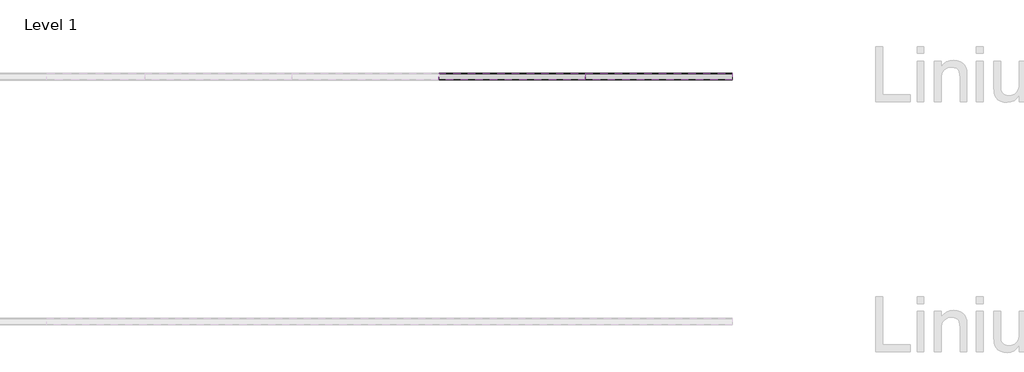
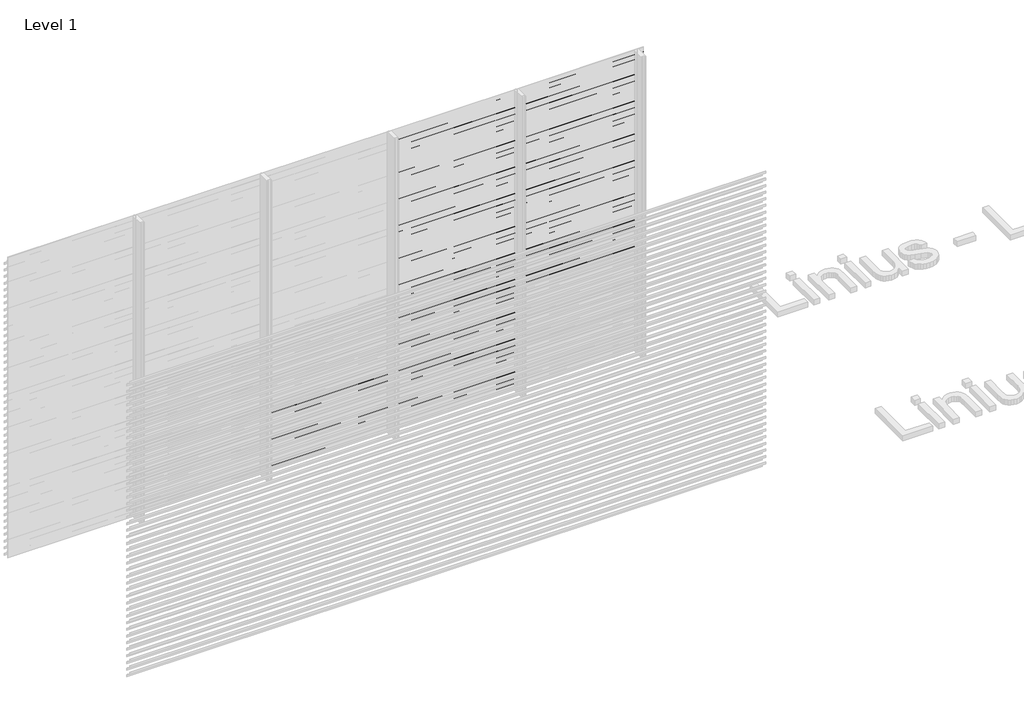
# One storey, part 27 of 540: 84 proxies.
"""IFC4 building model written with IfcOpenShell, lengths in millimetres."""

import ifcopenshell
import ifcopenshell.guid

model = None  # the IFC model being written
_history = None  # IfcOwnerHistory: only IFC2X3 demands one
_inside = {}  # id of a spatial element -> (the spatial element, [elements in it])
_under = {}  # id of a project, library or spatial element -> (it, [spatial elements below it])
_declared = {}  # id of a project -> (the project, [libraries it declares])
_typed = {}  # id of a type object -> (the type object, [elements of that type])
_made_of = {}  # id of a material, layer set ... -> (it, [elements and type objects made of it])


def new_model(schema):
    """Start an empty IFC model of exactly this schema.

    Asked for "IFC4X3", IfcOpenShell would pick the latest addendum, in which some entities
    have other attributes; the version numbers below select the first issue.
    IFC2X3 requires an IfcOwnerHistory on every rooted entity: one is made here for all.
    """
    global model, _history
    if schema == "IFC4X3":
        model = ifcopenshell.file(schema_version=(4, 3, 0, 0))
    else:
        model = ifcopenshell.file(schema=schema)
    _inside.clear()
    _under.clear()
    _declared.clear()
    _typed.clear()
    _made_of.clear()
    _history = None
    if model.schema == "IFC2X3":
        org = make("IfcOrganization", Name="unknown")
        user = make(
            "IfcPersonAndOrganization",
            ThePerson=make("IfcPerson", FamilyName="unknown"),
            TheOrganization=org,
        )
        app = make(
            "IfcApplication",
            ApplicationDeveloper=org,
            Version="unknown",
            ApplicationFullName="unknown",
            ApplicationIdentifier="unknown",
        )
        _history = make(
            "IfcOwnerHistory",
            OwningUser=user,
            OwningApplication=app,
            ChangeAction="ADDED",
            CreationDate=0,
        )
    return model


def make(cls, **values):
    """One entity of the class cls with the attributes given. An attribute that is None is left unset."""
    return model.create_entity(
        cls, **{name: value for name, value in values.items() if value is not None}
    )


def rooted(cls, **values):
    """An entity with a GlobalId (a new one), such as an element, a storey or a relation."""
    return make(cls, GlobalId=ifcopenshell.guid.new(), OwnerHistory=_history, **values)


def si_unit(unit_type, name, prefix=None):
    """IfcSIUnit, for example si_unit("LENGTHUNIT", "METRE", prefix="MILLI")."""
    return make("IfcSIUnit", UnitType=unit_type, Prefix=prefix, Name=name)


def assignment(units):
    """IfcUnitAssignment: the units of a project."""
    return None if units is None else make("IfcUnitAssignment", Units=units)


def point(xyz):
    """IfcCartesianPoint."""
    return None if xyz is None else make("IfcCartesianPoint", Coordinates=xyz)


def direction(xyz):
    """IfcDirection."""
    return None if xyz is None else make("IfcDirection", DirectionRatios=xyz)


def frame(location, z_axis=None, x_axis=None):
    """IfcAxis2Placement3D, a coordinate frame: its origin and axes. An axis left out is left unset."""
    return make(
        "IfcAxis2Placement3D",
        Location=point(location),
        Axis=direction(z_axis),
        RefDirection=direction(x_axis),
    )


def origin():
    """The frame at (0, 0, 0) with its axes left unset."""
    return frame((0.0, 0.0, 0.0))


def place(relative_to, where):
    """IfcLocalPlacement: puts the frame where relative to a parent placement (None: the world)."""
    return make(
        "IfcLocalPlacement", PlacementRelTo=relative_to, RelativePlacement=where
    )


def context(
    kind, dimensions, precision=None, world=None, true_north=None, identifier=None
):
    """IfcGeometricRepresentationContext, for example the 3D "Model" context."""
    return make(
        "IfcGeometricRepresentationContext",
        ContextIdentifier=identifier,
        ContextType=kind,
        CoordinateSpaceDimension=dimensions,
        Precision=precision,
        WorldCoordinateSystem=world,
        TrueNorth=true_north,
    )


def project(units=None, contexts=None):
    """IfcProject with its units and contexts."""
    return rooted(
        "IfcProject",
        Name="project",
        RepresentationContexts=contexts,
        UnitsInContext=assignment(units),
    )


def spatial(cls, under=None, at=None, **own):
    """A site, building, storey or space (cls), placed at a placement, below another one or the project."""
    s = rooted(cls, ObjectPlacement=at, **own)
    if under is not None:
        _under.setdefault(under.id(), (under, []))[1].append(s)
    return s


def polyline(points):
    """IfcPolyline through the points."""
    return make("IfcPolyline", Points=[point(p) for p in points])


def outline(outer, holes=None, kind="AREA"):
    """IfcArbitraryClosedProfileDef: a profile drawn as a closed curve; with holes, ...WithVoids."""
    if holes is None:
        return make("IfcArbitraryClosedProfileDef", ProfileType=kind, OuterCurve=outer)
    return make(
        "IfcArbitraryProfileDefWithVoids",
        ProfileType=kind,
        OuterCurve=outer,
        InnerCurves=holes,
    )


def extrude(swept, where, along, depth):
    """IfcExtrudedAreaSolid: the profile swept, set in the frame where, extruded along a direction by depth."""
    return make(
        "IfcExtrudedAreaSolid",
        SweptArea=swept,
        Position=where,
        ExtrudedDirection=direction(along),
        Depth=depth,
    )


def shape(context_of_items, identifier, shape_type, items):
    """IfcShapeRepresentation: the items that make up one representation, for example the "Body"."""
    return make(
        "IfcShapeRepresentation",
        ContextOfItems=context_of_items,
        RepresentationIdentifier=identifier,
        RepresentationType=shape_type,
        Items=items,
    )


def made_of(thing, what):
    """Note that an element or type object is made of a material, layer set ...; save() writes the relation."""
    if what is not None:
        _made_of.setdefault(what.id(), (what, []))[1].append(thing)
    return thing


def element(
    cls,
    number,
    at=None,
    inside=None,
    cuts=None,
    type_object=None,
    material=None,
    context=None,
    identifier="Body",
    shape_type=None,
    held_by="IfcProductDefinitionShape",
    body=None,
    shapes=None,
    **own,
):
    """One element of the class cls, such as IfcWall. Its Tag is "e" and its number.

    at: its placement. inside: the storey or other place that contains it. cuts: it is an
    opening in that element (IfcRelVoidsElement). A single representation is given by context,
    identifier, shape_type and body (its items); several are given by shapes. held_by: the class
    of the entity that holds the representations. save() writes the other relations.
    """
    e = rooted(cls, Tag="e%d" % number, ObjectPlacement=at, **own)
    if body is not None:
        shapes = [shape(context, identifier, shape_type, body)]
    if shapes is not None:
        e.Representation = make(held_by, Representations=shapes)
    if inside is not None:
        _inside.setdefault(inside.id(), (inside, []))[1].append(e)
    if cuts is not None:
        rooted(
            "IfcRelVoidsElement", RelatingBuildingElement=cuts, RelatedOpeningElement=e
        )
    if type_object is not None:
        _typed.setdefault(type_object.id(), (type_object, []))[1].append(e)
    return made_of(e, material)


def aggregate(whole, parts):
    """IfcRelAggregates: a whole, such as a stair, and the parts it consists of."""
    return rooted("IfcRelAggregates", RelatingObject=whole, RelatedObjects=parts)


def save(model, path):
    """Write the relations noted so far, then the file.

    IfcRelAggregates (storeys below a building ...), IfcRelContainedInSpatialStructure (elements
    in a storey), IfcRelDefinesByType, IfcRelAssociatesMaterial and IfcRelDeclares: one each for
    every whole, place, type object, material and project.
    """
    for whole, parts in _under.values():
        aggregate(whole, parts)
    for where, things in _inside.values():
        rooted(
            "IfcRelContainedInSpatialStructure",
            RelatedElements=things,
            RelatingStructure=where,
        )
    for kind, things in _typed.values():
        rooted("IfcRelDefinesByType", RelatedObjects=things, RelatingType=kind)
    for what, things in _made_of.values():
        rooted("IfcRelAssociatesMaterial", RelatedObjects=things, RelatingMaterial=what)
    for by, libraries in _declared.values():
        rooted("IfcRelDeclares", RelatingContext=by, RelatedDefinitions=libraries)
    model.write(path)


model = new_model("IFC4")

# Units and contexts
model_context = context("Model", 3, world=origin())
ifc_project = project(units=[si_unit("LENGTHUNIT", "METRE", prefix="MILLI")], contexts=[model_context])

# Site, building, storey
site = spatial("IfcSite", under=ifc_project)
building = spatial("IfcBuilding", under=site)
storey = spatial("IfcBuildingStorey", under=building, Name="Level 1", Elevation=0.0)

# Proxies
placement = place(None, origin())
element("IfcBuildingElementProxy", 1, Name="Wall Sweeps", at=placement, inside=storey, context=model_context, shape_type="SweptSolid", body=[
    extrude(outline(polyline([(14038.0540136, 537.5), (14038.0540136, 517.5), (14036.8040136, 518.2216933), (14036.8040136, 536.7872415), (13983.0540136, 574.3158044), (13983.0540136, 594.0), (13984.3040136, 594.0), (13984.3040136, 575.0285629), (14038.0540136, 537.5)])), frame((2866.6208097, 0.0, 0.0), z_axis=(1.0, 0.0, 0.0), x_axis=(0.0, 1.0, 0.0)), (0.0, 0.0, 1.0), 1199.9999999),
])
element("IfcBuildingElementProxy", 2, Name="Wall Sweeps", at=placement, inside=storey, context=model_context, shape_type="SweptSolid", body=[
    extrude(outline(polyline([(14038.0540136, 471.5), (14038.0540136, 451.5), (14036.8040136, 452.2216933), (14036.8040136, 470.7872415), (13983.0540136, 508.3158044), (13983.0540136, 528.0), (13984.3040136, 528.0), (13984.3040136, 509.0285629), (14038.0540136, 471.5)])), frame((2866.6208097, 0.0, 0.0), z_axis=(1.0, 0.0, 0.0), x_axis=(0.0, 1.0, 0.0)), (0.0, 0.0, 1.0), 1199.9999999),
])
element("IfcBuildingElementProxy", 3, Name="Wall Sweeps", at=placement, inside=storey, context=model_context, shape_type="SweptSolid", body=[
    extrude(outline(polyline([(14038.0540136, 405.5), (14038.0540136, 385.5), (14036.8040136, 386.2216933), (14036.8040136, 404.7872415), (13983.0540136, 442.3158044), (13983.0540136, 462.0), (13984.3040136, 462.0), (13984.3040136, 443.0285629), (14038.0540136, 405.5)])), frame((2866.6208097, 0.0, 0.0), z_axis=(1.0, 0.0, 0.0), x_axis=(0.0, 1.0, 0.0)), (0.0, 0.0, 1.0), 1199.9999999),
])
element("IfcBuildingElementProxy", 4, Name="Wall Sweeps", at=placement, inside=storey, context=model_context, shape_type="SweptSolid", body=[
    extrude(outline(polyline([(14038.0540136, 339.5), (14038.0540136, 319.5), (14036.8040136, 320.2216933), (14036.8040136, 338.7872415), (13983.0540136, 376.3158044), (13983.0540136, 396.0), (13984.3040136, 396.0), (13984.3040136, 377.0285629), (14038.0540136, 339.5)])), frame((2866.6208097, 0.0, 0.0), z_axis=(1.0, 0.0, 0.0), x_axis=(0.0, 1.0, 0.0)), (0.0, 0.0, 1.0), 1199.9999999),
])
element("IfcBuildingElementProxy", 5, Name="Wall Sweeps", at=placement, inside=storey, context=model_context, shape_type="SweptSolid", body=[
    extrude(outline(polyline([(14038.0540136, 273.5), (14038.0540136, 253.5), (14036.8040136, 254.2216933), (14036.8040136, 272.7872415), (13983.0540136, 310.3158044), (13983.0540136, 330.0), (13984.3040136, 330.0), (13984.3040136, 311.0285629), (14038.0540136, 273.5)])), frame((2866.6208097, 0.0, 0.0), z_axis=(1.0, 0.0, 0.0), x_axis=(0.0, 1.0, 0.0)), (0.0, 0.0, 1.0), 1199.9999999),
])
element("IfcBuildingElementProxy", 6, Name="Wall Sweeps", at=placement, inside=storey, context=model_context, shape_type="SweptSolid", body=[
    extrude(outline(polyline([(14038.0540136, 207.5), (14038.0540136, 187.5), (14036.8040136, 188.2216933), (14036.8040136, 206.7872415), (13983.0540136, 244.3158044), (13983.0540136, 264.0), (13984.3040136, 264.0), (13984.3040136, 245.0285629), (14038.0540136, 207.5)])), frame((2866.6208097, 0.0, 0.0), z_axis=(1.0, 0.0, 0.0), x_axis=(0.0, 1.0, 0.0)), (0.0, 0.0, 1.0), 1199.9999999),
])
element("IfcBuildingElementProxy", 7, Name="Wall Sweeps", at=placement, inside=storey, context=model_context, shape_type="SweptSolid", body=[
    extrude(outline(polyline([(14038.0540136, 141.5), (14038.0540136, 121.5), (14036.8040136, 122.2216933), (14036.8040136, 140.7872415), (13983.0540136, 178.3158044), (13983.0540136, 198.0), (13984.3040136, 198.0), (13984.3040136, 179.0285629), (14038.0540136, 141.5)])), frame((2866.6208097, 0.0, 0.0), z_axis=(1.0, 0.0, 0.0), x_axis=(0.0, 1.0, 0.0)), (0.0, 0.0, 1.0), 1199.9999999),
])
element("IfcBuildingElementProxy", 8, Name="Wall Sweeps", at=placement, inside=storey, context=model_context, shape_type="SweptSolid", body=[
    extrude(outline(polyline([(14038.0540136, 75.5), (14038.0540136, 55.5), (14036.8040136, 56.2216933), (14036.8040136, 74.7872415), (13983.0540136, 112.3158044), (13983.0540136, 132.0), (13984.3040136, 132.0), (13984.3040136, 113.0285629), (14038.0540136, 75.5)])), frame((2866.6208097, 0.0, 0.0), z_axis=(1.0, 0.0, 0.0), x_axis=(0.0, 1.0, 0.0)), (0.0, 0.0, 1.0), 1199.9999999),
])
element("IfcBuildingElementProxy", 9, Name="Wall Sweeps", at=placement, inside=storey, context=model_context, shape_type="SweptSolid", body=[
    extrude(outline(polyline([(14038.0540136, 9.5), (14038.0540136, -10.5), (14036.8040136, -9.7783067), (14036.8040136, 8.7872415), (13983.0540136, 46.3158044), (13983.0540136, 66.0), (13984.3040136, 66.0), (13984.3040136, 47.0285629), (14038.0540136, 9.5)])), frame((2866.6208097, 0.0, 0.0), z_axis=(1.0, 0.0, 0.0), x_axis=(0.0, 1.0, 0.0)), (0.0, 0.0, 1.0), 1199.9999999),
])
element("IfcBuildingElementProxy", 10, Name="Wall Sweeps", at=placement, inside=storey, context=model_context, shape_type="SweptSolid", body=[
    extrude(outline(polyline([(14038.0540136, 2913.5), (14038.0540136, 2893.5), (14036.8040136, 2894.2216933), (14036.8040136, 2912.7872415), (13983.0540136, 2950.3158044), (13983.0540136, 2970.0), (13984.3040136, 2970.0), (13984.3040136, 2951.0285629), (14038.0540136, 2913.5)])), frame((5266.6208095, 0.0, 0.0), z_axis=(1.0, 0.0, 0.0), x_axis=(0.0, 1.0, 0.0)), (0.0, 0.0, 1.0), 1200.0000002),
])
element("IfcBuildingElementProxy", 11, Name="Wall Sweeps", at=placement, inside=storey, context=model_context, shape_type="SweptSolid", body=[
    extrude(outline(polyline([(14038.0540136, 2847.5), (14038.0540136, 2827.5), (14036.8040136, 2828.2216933), (14036.8040136, 2846.7872415), (13983.0540136, 2884.3158044), (13983.0540136, 2904.0), (13984.3040136, 2904.0), (13984.3040136, 2885.0285629), (14038.0540136, 2847.5)])), frame((5266.6208095, 0.0, 0.0), z_axis=(1.0, 0.0, 0.0), x_axis=(0.0, 1.0, 0.0)), (0.0, 0.0, 1.0), 1200.0000002),
])
element("IfcBuildingElementProxy", 12, Name="Wall Sweeps", at=placement, inside=storey, context=model_context, shape_type="SweptSolid", body=[
    extrude(outline(polyline([(14038.0540136, 2781.5), (14038.0540136, 2761.5), (14036.8040136, 2762.2216933), (14036.8040136, 2780.7872415), (13983.0540136, 2818.3158044), (13983.0540136, 2838.0), (13984.3040136, 2838.0), (13984.3040136, 2819.0285629), (14038.0540136, 2781.5)])), frame((5266.6208095, 0.0, 0.0), z_axis=(1.0, 0.0, 0.0), x_axis=(0.0, 1.0, 0.0)), (0.0, 0.0, 1.0), 1200.0000002),
])
element("IfcBuildingElementProxy", 13, Name="Wall Sweeps", at=placement, inside=storey, context=model_context, shape_type="SweptSolid", body=[
    extrude(outline(polyline([(14038.0540136, 2715.5), (14038.0540136, 2695.5), (14036.8040136, 2696.2216933), (14036.8040136, 2714.7872415), (13983.0540136, 2752.3158044), (13983.0540136, 2772.0), (13984.3040136, 2772.0), (13984.3040136, 2753.0285629), (14038.0540136, 2715.5)])), frame((5266.6208095, 0.0, 0.0), z_axis=(1.0, 0.0, 0.0), x_axis=(0.0, 1.0, 0.0)), (0.0, 0.0, 1.0), 1200.0000002),
])
element("IfcBuildingElementProxy", 14, Name="Wall Sweeps", at=placement, inside=storey, context=model_context, shape_type="SweptSolid", body=[
    extrude(outline(polyline([(14038.0540136, 2649.5), (14038.0540136, 2629.5), (14036.8040136, 2630.2216933), (14036.8040136, 2648.7872415), (13983.0540136, 2686.3158044), (13983.0540136, 2706.0), (13984.3040136, 2706.0), (13984.3040136, 2687.0285629), (14038.0540136, 2649.5)])), frame((5266.6208095, 0.0, 0.0), z_axis=(1.0, 0.0, 0.0), x_axis=(0.0, 1.0, 0.0)), (0.0, 0.0, 1.0), 1200.0000002),
])
element("IfcBuildingElementProxy", 15, Name="Wall Sweeps", at=placement, inside=storey, context=model_context, shape_type="SweptSolid", body=[
    extrude(outline(polyline([(14038.0540136, 2583.5), (14038.0540136, 2563.5), (14036.8040136, 2564.2216933), (14036.8040136, 2582.7872415), (13983.0540136, 2620.3158044), (13983.0540136, 2640.0), (13984.3040136, 2640.0), (13984.3040136, 2621.0285629), (14038.0540136, 2583.5)])), frame((5266.6208095, 0.0, 0.0), z_axis=(1.0, 0.0, 0.0), x_axis=(0.0, 1.0, 0.0)), (0.0, 0.0, 1.0), 1200.0000002),
])
element("IfcBuildingElementProxy", 16, Name="Wall Sweeps", at=placement, inside=storey, context=model_context, shape_type="SweptSolid", body=[
    extrude(outline(polyline([(14038.0540136, 2517.5), (14038.0540136, 2497.5), (14036.8040136, 2498.2216933), (14036.8040136, 2516.7872415), (13983.0540136, 2554.3158044), (13983.0540136, 2574.0), (13984.3040136, 2574.0), (13984.3040136, 2555.0285629), (14038.0540136, 2517.5)])), frame((5266.6208095, 0.0, 0.0), z_axis=(1.0, 0.0, 0.0), x_axis=(0.0, 1.0, 0.0)), (0.0, 0.0, 1.0), 1200.0000002),
])
element("IfcBuildingElementProxy", 17, Name="Wall Sweeps", at=placement, inside=storey, context=model_context, shape_type="SweptSolid", body=[
    extrude(outline(polyline([(14038.0540136, 2451.5), (14038.0540136, 2431.5), (14036.8040136, 2432.2216933), (14036.8040136, 2450.7872415), (13983.0540136, 2488.3158044), (13983.0540136, 2508.0), (13984.3040136, 2508.0), (13984.3040136, 2489.0285629), (14038.0540136, 2451.5)])), frame((5266.6208095, 0.0, 0.0), z_axis=(1.0, 0.0, 0.0), x_axis=(0.0, 1.0, 0.0)), (0.0, 0.0, 1.0), 1200.0000002),
])
element("IfcBuildingElementProxy", 18, Name="Wall Sweeps", at=placement, inside=storey, context=model_context, shape_type="SweptSolid", body=[
    extrude(outline(polyline([(14038.0540136, 2385.5), (14038.0540136, 2365.5), (14036.8040136, 2366.2216933), (14036.8040136, 2384.7872415), (13983.0540136, 2422.3158044), (13983.0540136, 2442.0), (13984.3040136, 2442.0), (13984.3040136, 2423.0285629), (14038.0540136, 2385.5)])), frame((5266.6208095, 0.0, 0.0), z_axis=(1.0, 0.0, 0.0), x_axis=(0.0, 1.0, 0.0)), (0.0, 0.0, 1.0), 1200.0000002),
])
element("IfcBuildingElementProxy", 19, Name="Wall Sweeps", at=placement, inside=storey, context=model_context, shape_type="SweptSolid", body=[
    extrude(outline(polyline([(14038.0540136, 2319.5), (14038.0540136, 2299.5), (14036.8040136, 2300.2216933), (14036.8040136, 2318.7872415), (13983.0540136, 2356.3158044), (13983.0540136, 2376.0), (13984.3040136, 2376.0), (13984.3040136, 2357.0285629), (14038.0540136, 2319.5)])), frame((5266.6208095, 0.0, 0.0), z_axis=(1.0, 0.0, 0.0), x_axis=(0.0, 1.0, 0.0)), (0.0, 0.0, 1.0), 1200.0000002),
])
element("IfcBuildingElementProxy", 20, Name="Wall Sweeps", at=placement, inside=storey, context=model_context, shape_type="SweptSolid", body=[
    extrude(outline(polyline([(14038.0540136, 2253.5), (14038.0540136, 2233.5), (14036.8040136, 2234.2216933), (14036.8040136, 2252.7872415), (13983.0540136, 2290.3158044), (13983.0540136, 2310.0), (13984.3040136, 2310.0), (13984.3040136, 2291.0285629), (14038.0540136, 2253.5)])), frame((5266.6208095, 0.0, 0.0), z_axis=(1.0, 0.0, 0.0), x_axis=(0.0, 1.0, 0.0)), (0.0, 0.0, 1.0), 1200.0000002),
])
element("IfcBuildingElementProxy", 21, Name="Wall Sweeps", at=placement, inside=storey, context=model_context, shape_type="SweptSolid", body=[
    extrude(outline(polyline([(14038.0540136, 2187.5), (14038.0540136, 2167.5), (14036.8040136, 2168.2216933), (14036.8040136, 2186.7872415), (13983.0540136, 2224.3158044), (13983.0540136, 2244.0), (13984.3040136, 2244.0), (13984.3040136, 2225.0285629), (14038.0540136, 2187.5)])), frame((5266.6208095, 0.0, 0.0), z_axis=(1.0, 0.0, 0.0), x_axis=(0.0, 1.0, 0.0)), (0.0, 0.0, 1.0), 1200.0000002),
])
element("IfcBuildingElementProxy", 22, Name="Wall Sweeps", at=placement, inside=storey, context=model_context, shape_type="SweptSolid", body=[
    extrude(outline(polyline([(14038.0540136, 2121.5), (14038.0540136, 2101.5), (14036.8040136, 2102.2216933), (14036.8040136, 2120.7872415), (13983.0540136, 2158.3158044), (13983.0540136, 2178.0), (13984.3040136, 2178.0), (13984.3040136, 2159.0285629), (14038.0540136, 2121.5)])), frame((5266.6208095, 0.0, 0.0), z_axis=(1.0, 0.0, 0.0), x_axis=(0.0, 1.0, 0.0)), (0.0, 0.0, 1.0), 1200.0000002),
])
element("IfcBuildingElementProxy", 23, Name="Wall Sweeps", at=placement, inside=storey, context=model_context, shape_type="SweptSolid", body=[
    extrude(outline(polyline([(14038.0540136, 2055.5), (14038.0540136, 2035.5), (14036.8040136, 2036.2216933), (14036.8040136, 2054.7872415), (13983.0540136, 2092.3158044), (13983.0540136, 2112.0), (13984.3040136, 2112.0), (13984.3040136, 2093.0285629), (14038.0540136, 2055.5)])), frame((5266.6208095, 0.0, 0.0), z_axis=(1.0, 0.0, 0.0), x_axis=(0.0, 1.0, 0.0)), (0.0, 0.0, 1.0), 1200.0000002),
])
element("IfcBuildingElementProxy", 24, Name="Wall Sweeps", at=placement, inside=storey, context=model_context, shape_type="SweptSolid", body=[
    extrude(outline(polyline([(14038.0540136, 1989.5), (14038.0540136, 1969.5), (14036.8040136, 1970.2216933), (14036.8040136, 1988.7872415), (13983.0540136, 2026.3158044), (13983.0540136, 2046.0), (13984.3040136, 2046.0), (13984.3040136, 2027.0285629), (14038.0540136, 1989.5)])), frame((5266.6208095, 0.0, 0.0), z_axis=(1.0, 0.0, 0.0), x_axis=(0.0, 1.0, 0.0)), (0.0, 0.0, 1.0), 1200.0000002),
])
element("IfcBuildingElementProxy", 25, Name="Wall Sweeps", at=placement, inside=storey, context=model_context, shape_type="SweptSolid", body=[
    extrude(outline(polyline([(14038.0540136, 1923.5), (14038.0540136, 1903.5), (14036.8040136, 1904.2216933), (14036.8040136, 1922.7872415), (13983.0540136, 1960.3158044), (13983.0540136, 1980.0), (13984.3040136, 1980.0), (13984.3040136, 1961.0285629), (14038.0540136, 1923.5)])), frame((5266.6208095, 0.0, 0.0), z_axis=(1.0, 0.0, 0.0), x_axis=(0.0, 1.0, 0.0)), (0.0, 0.0, 1.0), 1200.0000002),
])
element("IfcBuildingElementProxy", 26, Name="Wall Sweeps", at=placement, inside=storey, context=model_context, shape_type="SweptSolid", body=[
    extrude(outline(polyline([(14038.0540136, 1857.5), (14038.0540136, 1837.5), (14036.8040136, 1838.2216933), (14036.8040136, 1856.7872415), (13983.0540136, 1894.3158044), (13983.0540136, 1914.0), (13984.3040136, 1914.0), (13984.3040136, 1895.0285629), (14038.0540136, 1857.5)])), frame((5266.6208095, 0.0, 0.0), z_axis=(1.0, 0.0, 0.0), x_axis=(0.0, 1.0, 0.0)), (0.0, 0.0, 1.0), 1200.0000002),
])
element("IfcBuildingElementProxy", 27, Name="Wall Sweeps", at=placement, inside=storey, context=model_context, shape_type="SweptSolid", body=[
    extrude(outline(polyline([(14038.0540136, 1791.5), (14038.0540136, 1771.5), (14036.8040136, 1772.2216933), (14036.8040136, 1790.7872415), (13983.0540136, 1828.3158044), (13983.0540136, 1848.0), (13984.3040136, 1848.0), (13984.3040136, 1829.0285629), (14038.0540136, 1791.5)])), frame((5266.6208095, 0.0, 0.0), z_axis=(1.0, 0.0, 0.0), x_axis=(0.0, 1.0, 0.0)), (0.0, 0.0, 1.0), 1200.0000002),
])
element("IfcBuildingElementProxy", 28, Name="Wall Sweeps", at=placement, inside=storey, context=model_context, shape_type="SweptSolid", body=[
    extrude(outline(polyline([(14038.0540136, 1725.5), (14038.0540136, 1705.5), (14036.8040136, 1706.2216933), (14036.8040136, 1724.7872415), (13983.0540136, 1762.3158044), (13983.0540136, 1782.0), (13984.3040136, 1782.0), (13984.3040136, 1763.0285629), (14038.0540136, 1725.5)])), frame((5266.6208095, 0.0, 0.0), z_axis=(1.0, 0.0, 0.0), x_axis=(0.0, 1.0, 0.0)), (0.0, 0.0, 1.0), 1200.0000002),
])
element("IfcBuildingElementProxy", 29, Name="Wall Sweeps", at=placement, inside=storey, context=model_context, shape_type="SweptSolid", body=[
    extrude(outline(polyline([(14038.0540136, 1659.5), (14038.0540136, 1639.5), (14036.8040136, 1640.2216933), (14036.8040136, 1658.7872415), (13983.0540136, 1696.3158044), (13983.0540136, 1716.0), (13984.3040136, 1716.0), (13984.3040136, 1697.0285629), (14038.0540136, 1659.5)])), frame((5266.6208095, 0.0, 0.0), z_axis=(1.0, 0.0, 0.0), x_axis=(0.0, 1.0, 0.0)), (0.0, 0.0, 1.0), 1200.0000002),
])
element("IfcBuildingElementProxy", 30, Name="Wall Sweeps", at=placement, inside=storey, context=model_context, shape_type="SweptSolid", body=[
    extrude(outline(polyline([(14038.0540136, 1593.5), (14038.0540136, 1573.5), (14036.8040136, 1574.2216933), (14036.8040136, 1592.7872415), (13983.0540136, 1630.3158044), (13983.0540136, 1650.0), (13984.3040136, 1650.0), (13984.3040136, 1631.0285629), (14038.0540136, 1593.5)])), frame((5266.6208095, 0.0, 0.0), z_axis=(1.0, 0.0, 0.0), x_axis=(0.0, 1.0, 0.0)), (0.0, 0.0, 1.0), 1200.0000002),
])
element("IfcBuildingElementProxy", 31, Name="Wall Sweeps", at=placement, inside=storey, context=model_context, shape_type="SweptSolid", body=[
    extrude(outline(polyline([(14038.0540136, 1527.5), (14038.0540136, 1507.5), (14036.8040136, 1508.2216933), (14036.8040136, 1526.7872415), (13983.0540136, 1564.3158044), (13983.0540136, 1584.0), (13984.3040136, 1584.0), (13984.3040136, 1565.0285629), (14038.0540136, 1527.5)])), frame((5266.6208095, 0.0, 0.0), z_axis=(1.0, 0.0, 0.0), x_axis=(0.0, 1.0, 0.0)), (0.0, 0.0, 1.0), 1200.0000002),
])
element("IfcBuildingElementProxy", 32, Name="Wall Sweeps", at=placement, inside=storey, context=model_context, shape_type="SweptSolid", body=[
    extrude(outline(polyline([(14038.0540136, 1461.5), (14038.0540136, 1441.5), (14036.8040136, 1442.2216933), (14036.8040136, 1460.7872415), (13983.0540136, 1498.3158044), (13983.0540136, 1518.0), (13984.3040136, 1518.0), (13984.3040136, 1499.0285629), (14038.0540136, 1461.5)])), frame((5266.6208095, 0.0, 0.0), z_axis=(1.0, 0.0, 0.0), x_axis=(0.0, 1.0, 0.0)), (0.0, 0.0, 1.0), 1200.0000002),
])
element("IfcBuildingElementProxy", 33, Name="Wall Sweeps", at=placement, inside=storey, context=model_context, shape_type="SweptSolid", body=[
    extrude(outline(polyline([(14038.0540136, 1395.5), (14038.0540136, 1375.5), (14036.8040136, 1376.2216933), (14036.8040136, 1394.7872415), (13983.0540136, 1432.3158044), (13983.0540136, 1452.0), (13984.3040136, 1452.0), (13984.3040136, 1433.0285629), (14038.0540136, 1395.5)])), frame((5266.6208095, 0.0, 0.0), z_axis=(1.0, 0.0, 0.0), x_axis=(0.0, 1.0, 0.0)), (0.0, 0.0, 1.0), 1200.0000002),
])
element("IfcBuildingElementProxy", 34, Name="Wall Sweeps", at=placement, inside=storey, context=model_context, shape_type="SweptSolid", body=[
    extrude(outline(polyline([(14038.0540136, 1329.5), (14038.0540136, 1309.5), (14036.8040136, 1310.2216933), (14036.8040136, 1328.7872415), (13983.0540136, 1366.3158044), (13983.0540136, 1386.0), (13984.3040136, 1386.0), (13984.3040136, 1367.0285629), (14038.0540136, 1329.5)])), frame((5266.6208095, 0.0, 0.0), z_axis=(1.0, 0.0, 0.0), x_axis=(0.0, 1.0, 0.0)), (0.0, 0.0, 1.0), 1200.0000002),
])
element("IfcBuildingElementProxy", 35, Name="Wall Sweeps", at=placement, inside=storey, context=model_context, shape_type="SweptSolid", body=[
    extrude(outline(polyline([(14038.0540136, 1263.5), (14038.0540136, 1243.5), (14036.8040136, 1244.2216933), (14036.8040136, 1262.7872415), (13983.0540136, 1300.3158044), (13983.0540136, 1320.0), (13984.3040136, 1320.0), (13984.3040136, 1301.0285629), (14038.0540136, 1263.5)])), frame((5266.6208095, 0.0, 0.0), z_axis=(1.0, 0.0, 0.0), x_axis=(0.0, 1.0, 0.0)), (0.0, 0.0, 1.0), 1200.0000002),
])
element("IfcBuildingElementProxy", 36, Name="Wall Sweeps", at=placement, inside=storey, context=model_context, shape_type="SweptSolid", body=[
    extrude(outline(polyline([(14038.0540136, 1197.5), (14038.0540136, 1177.5), (14036.8040136, 1178.2216933), (14036.8040136, 1196.7872415), (13983.0540136, 1234.3158044), (13983.0540136, 1254.0), (13984.3040136, 1254.0), (13984.3040136, 1235.0285629), (14038.0540136, 1197.5)])), frame((5266.6208095, 0.0, 0.0), z_axis=(1.0, 0.0, 0.0), x_axis=(0.0, 1.0, 0.0)), (0.0, 0.0, 1.0), 1200.0000002),
])
element("IfcBuildingElementProxy", 37, Name="Wall Sweeps", at=placement, inside=storey, context=model_context, shape_type="SweptSolid", body=[
    extrude(outline(polyline([(14038.0540136, 1131.5), (14038.0540136, 1111.5), (14036.8040136, 1112.2216933), (14036.8040136, 1130.7872415), (13983.0540136, 1168.3158044), (13983.0540136, 1188.0), (13984.3040136, 1188.0), (13984.3040136, 1169.0285629), (14038.0540136, 1131.5)])), frame((5266.6208095, 0.0, 0.0), z_axis=(1.0, 0.0, 0.0), x_axis=(0.0, 1.0, 0.0)), (0.0, 0.0, 1.0), 1200.0000002),
])
element("IfcBuildingElementProxy", 38, Name="Wall Sweeps", at=placement, inside=storey, context=model_context, shape_type="SweptSolid", body=[
    extrude(outline(polyline([(14038.0540136, 1065.5), (14038.0540136, 1045.5), (14036.8040136, 1046.2216933), (14036.8040136, 1064.7872415), (13983.0540136, 1102.3158044), (13983.0540136, 1122.0), (13984.3040136, 1122.0), (13984.3040136, 1103.0285629), (14038.0540136, 1065.5)])), frame((5266.6208095, 0.0, 0.0), z_axis=(1.0, 0.0, 0.0), x_axis=(0.0, 1.0, 0.0)), (0.0, 0.0, 1.0), 1200.0000002),
])
element("IfcBuildingElementProxy", 39, Name="Wall Sweeps", at=placement, inside=storey, context=model_context, shape_type="SweptSolid", body=[
    extrude(outline(polyline([(14038.0540136, 999.5), (14038.0540136, 979.5), (14036.8040136, 980.2216933), (14036.8040136, 998.7872415), (13983.0540136, 1036.3158044), (13983.0540136, 1056.0), (13984.3040136, 1056.0), (13984.3040136, 1037.0285629), (14038.0540136, 999.5)])), frame((5266.6208095, 0.0, 0.0), z_axis=(1.0, 0.0, 0.0), x_axis=(0.0, 1.0, 0.0)), (0.0, 0.0, 1.0), 1200.0000002),
])
element("IfcBuildingElementProxy", 40, Name="Wall Sweeps", at=placement, inside=storey, context=model_context, shape_type="SweptSolid", body=[
    extrude(outline(polyline([(14038.0540136, 2913.5), (14038.0540136, 2893.5), (14036.8040136, 2894.2216933), (14036.8040136, 2912.7872415), (13983.0540136, 2950.3158044), (13983.0540136, 2970.0), (13984.3040136, 2970.0), (13984.3040136, 2951.0285629), (14038.0540136, 2913.5)])), frame((4066.6208096, 0.0, 0.0), z_axis=(1.0, 0.0, 0.0), x_axis=(0.0, 1.0, 0.0)), (0.0, 0.0, 1.0), 1199.9999999),
])
element("IfcBuildingElementProxy", 41, Name="Wall Sweeps", at=placement, inside=storey, context=model_context, shape_type="SweptSolid", body=[
    extrude(outline(polyline([(14038.0540136, 2847.5), (14038.0540136, 2827.5), (14036.8040136, 2828.2216933), (14036.8040136, 2846.7872415), (13983.0540136, 2884.3158044), (13983.0540136, 2904.0), (13984.3040136, 2904.0), (13984.3040136, 2885.0285629), (14038.0540136, 2847.5)])), frame((4066.6208096, 0.0, 0.0), z_axis=(1.0, 0.0, 0.0), x_axis=(0.0, 1.0, 0.0)), (0.0, 0.0, 1.0), 1199.9999999),
])
element("IfcBuildingElementProxy", 42, Name="Wall Sweeps", at=placement, inside=storey, context=model_context, shape_type="SweptSolid", body=[
    extrude(outline(polyline([(14038.0540136, 2781.5), (14038.0540136, 2761.5), (14036.8040136, 2762.2216933), (14036.8040136, 2780.7872415), (13983.0540136, 2818.3158044), (13983.0540136, 2838.0), (13984.3040136, 2838.0), (13984.3040136, 2819.0285629), (14038.0540136, 2781.5)])), frame((4066.6208096, 0.0, 0.0), z_axis=(1.0, 0.0, 0.0), x_axis=(0.0, 1.0, 0.0)), (0.0, 0.0, 1.0), 1199.9999999),
])
element("IfcBuildingElementProxy", 43, Name="Wall Sweeps", at=placement, inside=storey, context=model_context, shape_type="SweptSolid", body=[
    extrude(outline(polyline([(14038.0540136, 2715.5), (14038.0540136, 2695.5), (14036.8040136, 2696.2216933), (14036.8040136, 2714.7872415), (13983.0540136, 2752.3158044), (13983.0540136, 2772.0), (13984.3040136, 2772.0), (13984.3040136, 2753.0285629), (14038.0540136, 2715.5)])), frame((4066.6208096, 0.0, 0.0), z_axis=(1.0, 0.0, 0.0), x_axis=(0.0, 1.0, 0.0)), (0.0, 0.0, 1.0), 1199.9999999),
])
element("IfcBuildingElementProxy", 44, Name="Wall Sweeps", at=placement, inside=storey, context=model_context, shape_type="SweptSolid", body=[
    extrude(outline(polyline([(14038.0540136, 2649.5), (14038.0540136, 2629.5), (14036.8040136, 2630.2216933), (14036.8040136, 2648.7872415), (13983.0540136, 2686.3158044), (13983.0540136, 2706.0), (13984.3040136, 2706.0), (13984.3040136, 2687.0285629), (14038.0540136, 2649.5)])), frame((4066.6208096, 0.0, 0.0), z_axis=(1.0, 0.0, 0.0), x_axis=(0.0, 1.0, 0.0)), (0.0, 0.0, 1.0), 1199.9999999),
])
element("IfcBuildingElementProxy", 45, Name="Wall Sweeps", at=placement, inside=storey, context=model_context, shape_type="SweptSolid", body=[
    extrude(outline(polyline([(14038.0540136, 2583.5), (14038.0540136, 2563.5), (14036.8040136, 2564.2216933), (14036.8040136, 2582.7872415), (13983.0540136, 2620.3158044), (13983.0540136, 2640.0), (13984.3040136, 2640.0), (13984.3040136, 2621.0285629), (14038.0540136, 2583.5)])), frame((4066.6208096, 0.0, 0.0), z_axis=(1.0, 0.0, 0.0), x_axis=(0.0, 1.0, 0.0)), (0.0, 0.0, 1.0), 1199.9999999),
])
element("IfcBuildingElementProxy", 46, Name="Wall Sweeps", at=placement, inside=storey, context=model_context, shape_type="SweptSolid", body=[
    extrude(outline(polyline([(14038.0540136, 2517.5), (14038.0540136, 2497.5), (14036.8040136, 2498.2216933), (14036.8040136, 2516.7872415), (13983.0540136, 2554.3158044), (13983.0540136, 2574.0), (13984.3040136, 2574.0), (13984.3040136, 2555.0285629), (14038.0540136, 2517.5)])), frame((4066.6208096, 0.0, 0.0), z_axis=(1.0, 0.0, 0.0), x_axis=(0.0, 1.0, 0.0)), (0.0, 0.0, 1.0), 1199.9999999),
])
element("IfcBuildingElementProxy", 47, Name="Wall Sweeps", at=placement, inside=storey, context=model_context, shape_type="SweptSolid", body=[
    extrude(outline(polyline([(14038.0540136, 2451.5), (14038.0540136, 2431.5), (14036.8040136, 2432.2216933), (14036.8040136, 2450.7872415), (13983.0540136, 2488.3158044), (13983.0540136, 2508.0), (13984.3040136, 2508.0), (13984.3040136, 2489.0285629), (14038.0540136, 2451.5)])), frame((4066.6208096, 0.0, 0.0), z_axis=(1.0, 0.0, 0.0), x_axis=(0.0, 1.0, 0.0)), (0.0, 0.0, 1.0), 1199.9999999),
])
element("IfcBuildingElementProxy", 48, Name="Wall Sweeps", at=placement, inside=storey, context=model_context, shape_type="SweptSolid", body=[
    extrude(outline(polyline([(14038.0540136, 2385.5), (14038.0540136, 2365.5), (14036.8040136, 2366.2216933), (14036.8040136, 2384.7872415), (13983.0540136, 2422.3158044), (13983.0540136, 2442.0), (13984.3040136, 2442.0), (13984.3040136, 2423.0285629), (14038.0540136, 2385.5)])), frame((4066.6208096, 0.0, 0.0), z_axis=(1.0, 0.0, 0.0), x_axis=(0.0, 1.0, 0.0)), (0.0, 0.0, 1.0), 1199.9999999),
])
element("IfcBuildingElementProxy", 49, Name="Wall Sweeps", at=placement, inside=storey, context=model_context, shape_type="SweptSolid", body=[
    extrude(outline(polyline([(14038.0540136, 2319.5), (14038.0540136, 2299.5), (14036.8040136, 2300.2216933), (14036.8040136, 2318.7872415), (13983.0540136, 2356.3158044), (13983.0540136, 2376.0), (13984.3040136, 2376.0), (13984.3040136, 2357.0285629), (14038.0540136, 2319.5)])), frame((4066.6208096, 0.0, 0.0), z_axis=(1.0, 0.0, 0.0), x_axis=(0.0, 1.0, 0.0)), (0.0, 0.0, 1.0), 1199.9999999),
])
element("IfcBuildingElementProxy", 50, Name="Wall Sweeps", at=placement, inside=storey, context=model_context, shape_type="SweptSolid", body=[
    extrude(outline(polyline([(14038.0540136, 2253.5), (14038.0540136, 2233.5), (14036.8040136, 2234.2216933), (14036.8040136, 2252.7872415), (13983.0540136, 2290.3158044), (13983.0540136, 2310.0), (13984.3040136, 2310.0), (13984.3040136, 2291.0285629), (14038.0540136, 2253.5)])), frame((4066.6208096, 0.0, 0.0), z_axis=(1.0, 0.0, 0.0), x_axis=(0.0, 1.0, 0.0)), (0.0, 0.0, 1.0), 1199.9999999),
])
element("IfcBuildingElementProxy", 51, Name="Wall Sweeps", at=placement, inside=storey, context=model_context, shape_type="SweptSolid", body=[
    extrude(outline(polyline([(14038.0540136, 2187.5), (14038.0540136, 2167.5), (14036.8040136, 2168.2216933), (14036.8040136, 2186.7872415), (13983.0540136, 2224.3158044), (13983.0540136, 2244.0), (13984.3040136, 2244.0), (13984.3040136, 2225.0285629), (14038.0540136, 2187.5)])), frame((4066.6208096, 0.0, 0.0), z_axis=(1.0, 0.0, 0.0), x_axis=(0.0, 1.0, 0.0)), (0.0, 0.0, 1.0), 1199.9999999),
])
element("IfcBuildingElementProxy", 52, Name="Wall Sweeps", at=placement, inside=storey, context=model_context, shape_type="SweptSolid", body=[
    extrude(outline(polyline([(14038.0540136, 2121.5), (14038.0540136, 2101.5), (14036.8040136, 2102.2216933), (14036.8040136, 2120.7872415), (13983.0540136, 2158.3158044), (13983.0540136, 2178.0), (13984.3040136, 2178.0), (13984.3040136, 2159.0285629), (14038.0540136, 2121.5)])), frame((4066.6208096, 0.0, 0.0), z_axis=(1.0, 0.0, 0.0), x_axis=(0.0, 1.0, 0.0)), (0.0, 0.0, 1.0), 1199.9999999),
])
element("IfcBuildingElementProxy", 53, Name="Wall Sweeps", at=placement, inside=storey, context=model_context, shape_type="SweptSolid", body=[
    extrude(outline(polyline([(14038.0540136, 2055.5), (14038.0540136, 2035.5), (14036.8040136, 2036.2216933), (14036.8040136, 2054.7872415), (13983.0540136, 2092.3158044), (13983.0540136, 2112.0), (13984.3040136, 2112.0), (13984.3040136, 2093.0285629), (14038.0540136, 2055.5)])), frame((4066.6208096, 0.0, 0.0), z_axis=(1.0, 0.0, 0.0), x_axis=(0.0, 1.0, 0.0)), (0.0, 0.0, 1.0), 1199.9999999),
])
element("IfcBuildingElementProxy", 54, Name="Wall Sweeps", at=placement, inside=storey, context=model_context, shape_type="SweptSolid", body=[
    extrude(outline(polyline([(14038.0540136, 1989.5), (14038.0540136, 1969.5), (14036.8040136, 1970.2216933), (14036.8040136, 1988.7872415), (13983.0540136, 2026.3158044), (13983.0540136, 2046.0), (13984.3040136, 2046.0), (13984.3040136, 2027.0285629), (14038.0540136, 1989.5)])), frame((4066.6208096, 0.0, 0.0), z_axis=(1.0, 0.0, 0.0), x_axis=(0.0, 1.0, 0.0)), (0.0, 0.0, 1.0), 1199.9999999),
])
element("IfcBuildingElementProxy", 55, Name="Wall Sweeps", at=placement, inside=storey, context=model_context, shape_type="SweptSolid", body=[
    extrude(outline(polyline([(14038.0540136, 1923.5), (14038.0540136, 1903.5), (14036.8040136, 1904.2216933), (14036.8040136, 1922.7872415), (13983.0540136, 1960.3158044), (13983.0540136, 1980.0), (13984.3040136, 1980.0), (13984.3040136, 1961.0285629), (14038.0540136, 1923.5)])), frame((4066.6208096, 0.0, 0.0), z_axis=(1.0, 0.0, 0.0), x_axis=(0.0, 1.0, 0.0)), (0.0, 0.0, 1.0), 1199.9999999),
])
element("IfcBuildingElementProxy", 56, Name="Wall Sweeps", at=placement, inside=storey, context=model_context, shape_type="SweptSolid", body=[
    extrude(outline(polyline([(14038.0540136, 1857.5), (14038.0540136, 1837.5), (14036.8040136, 1838.2216933), (14036.8040136, 1856.7872415), (13983.0540136, 1894.3158044), (13983.0540136, 1914.0), (13984.3040136, 1914.0), (13984.3040136, 1895.0285629), (14038.0540136, 1857.5)])), frame((4066.6208096, 0.0, 0.0), z_axis=(1.0, 0.0, 0.0), x_axis=(0.0, 1.0, 0.0)), (0.0, 0.0, 1.0), 1199.9999999),
])
element("IfcBuildingElementProxy", 57, Name="Wall Sweeps", at=placement, inside=storey, context=model_context, shape_type="SweptSolid", body=[
    extrude(outline(polyline([(14038.0540136, 1791.5), (14038.0540136, 1771.5), (14036.8040136, 1772.2216933), (14036.8040136, 1790.7872415), (13983.0540136, 1828.3158044), (13983.0540136, 1848.0), (13984.3040136, 1848.0), (13984.3040136, 1829.0285629), (14038.0540136, 1791.5)])), frame((4066.6208096, 0.0, 0.0), z_axis=(1.0, 0.0, 0.0), x_axis=(0.0, 1.0, 0.0)), (0.0, 0.0, 1.0), 1199.9999999),
])
element("IfcBuildingElementProxy", 58, Name="Wall Sweeps", at=placement, inside=storey, context=model_context, shape_type="SweptSolid", body=[
    extrude(outline(polyline([(14038.0540136, 1725.5), (14038.0540136, 1705.5), (14036.8040136, 1706.2216933), (14036.8040136, 1724.7872415), (13983.0540136, 1762.3158044), (13983.0540136, 1782.0), (13984.3040136, 1782.0), (13984.3040136, 1763.0285629), (14038.0540136, 1725.5)])), frame((4066.6208096, 0.0, 0.0), z_axis=(1.0, 0.0, 0.0), x_axis=(0.0, 1.0, 0.0)), (0.0, 0.0, 1.0), 1199.9999999),
])
element("IfcBuildingElementProxy", 59, Name="Wall Sweeps", at=placement, inside=storey, context=model_context, shape_type="SweptSolid", body=[
    extrude(outline(polyline([(14038.0540136, 1659.5), (14038.0540136, 1639.5), (14036.8040136, 1640.2216933), (14036.8040136, 1658.7872415), (13983.0540136, 1696.3158044), (13983.0540136, 1716.0), (13984.3040136, 1716.0), (13984.3040136, 1697.0285629), (14038.0540136, 1659.5)])), frame((4066.6208096, 0.0, 0.0), z_axis=(1.0, 0.0, 0.0), x_axis=(0.0, 1.0, 0.0)), (0.0, 0.0, 1.0), 1199.9999999),
])
element("IfcBuildingElementProxy", 60, Name="Wall Sweeps", at=placement, inside=storey, context=model_context, shape_type="SweptSolid", body=[
    extrude(outline(polyline([(14038.0540136, 1593.5), (14038.0540136, 1573.5), (14036.8040136, 1574.2216933), (14036.8040136, 1592.7872415), (13983.0540136, 1630.3158044), (13983.0540136, 1650.0), (13984.3040136, 1650.0), (13984.3040136, 1631.0285629), (14038.0540136, 1593.5)])), frame((4066.6208096, 0.0, 0.0), z_axis=(1.0, 0.0, 0.0), x_axis=(0.0, 1.0, 0.0)), (0.0, 0.0, 1.0), 1199.9999999),
])
element("IfcBuildingElementProxy", 61, Name="Wall Sweeps", at=placement, inside=storey, context=model_context, shape_type="SweptSolid", body=[
    extrude(outline(polyline([(14038.0540136, 1527.5), (14038.0540136, 1507.5), (14036.8040136, 1508.2216933), (14036.8040136, 1526.7872415), (13983.0540136, 1564.3158044), (13983.0540136, 1584.0), (13984.3040136, 1584.0), (13984.3040136, 1565.0285629), (14038.0540136, 1527.5)])), frame((4066.6208096, 0.0, 0.0), z_axis=(1.0, 0.0, 0.0), x_axis=(0.0, 1.0, 0.0)), (0.0, 0.0, 1.0), 1199.9999999),
])
element("IfcBuildingElementProxy", 62, Name="Wall Sweeps", at=placement, inside=storey, context=model_context, shape_type="SweptSolid", body=[
    extrude(outline(polyline([(14038.0540136, 1461.5), (14038.0540136, 1441.5), (14036.8040136, 1442.2216933), (14036.8040136, 1460.7872415), (13983.0540136, 1498.3158044), (13983.0540136, 1518.0), (13984.3040136, 1518.0), (13984.3040136, 1499.0285629), (14038.0540136, 1461.5)])), frame((4066.6208096, 0.0, 0.0), z_axis=(1.0, 0.0, 0.0), x_axis=(0.0, 1.0, 0.0)), (0.0, 0.0, 1.0), 1199.9999999),
])
element("IfcBuildingElementProxy", 63, Name="Wall Sweeps", at=placement, inside=storey, context=model_context, shape_type="SweptSolid", body=[
    extrude(outline(polyline([(14038.0540136, 1395.5), (14038.0540136, 1375.5), (14036.8040136, 1376.2216933), (14036.8040136, 1394.7872415), (13983.0540136, 1432.3158044), (13983.0540136, 1452.0), (13984.3040136, 1452.0), (13984.3040136, 1433.0285629), (14038.0540136, 1395.5)])), frame((4066.6208096, 0.0, 0.0), z_axis=(1.0, 0.0, 0.0), x_axis=(0.0, 1.0, 0.0)), (0.0, 0.0, 1.0), 1199.9999999),
])
element("IfcBuildingElementProxy", 64, Name="Wall Sweeps", at=placement, inside=storey, context=model_context, shape_type="SweptSolid", body=[
    extrude(outline(polyline([(14038.0540136, 1329.5), (14038.0540136, 1309.5), (14036.8040136, 1310.2216933), (14036.8040136, 1328.7872415), (13983.0540136, 1366.3158044), (13983.0540136, 1386.0), (13984.3040136, 1386.0), (13984.3040136, 1367.0285629), (14038.0540136, 1329.5)])), frame((4066.6208096, 0.0, 0.0), z_axis=(1.0, 0.0, 0.0), x_axis=(0.0, 1.0, 0.0)), (0.0, 0.0, 1.0), 1199.9999999),
])
element("IfcBuildingElementProxy", 65, Name="Wall Sweeps", at=placement, inside=storey, context=model_context, shape_type="SweptSolid", body=[
    extrude(outline(polyline([(14038.0540136, 1263.5), (14038.0540136, 1243.5), (14036.8040136, 1244.2216933), (14036.8040136, 1262.7872415), (13983.0540136, 1300.3158044), (13983.0540136, 1320.0), (13984.3040136, 1320.0), (13984.3040136, 1301.0285629), (14038.0540136, 1263.5)])), frame((4066.6208096, 0.0, 0.0), z_axis=(1.0, 0.0, 0.0), x_axis=(0.0, 1.0, 0.0)), (0.0, 0.0, 1.0), 1199.9999999),
])
element("IfcBuildingElementProxy", 66, Name="Wall Sweeps", at=placement, inside=storey, context=model_context, shape_type="SweptSolid", body=[
    extrude(outline(polyline([(14038.0540136, 1197.5), (14038.0540136, 1177.5), (14036.8040136, 1178.2216933), (14036.8040136, 1196.7872415), (13983.0540136, 1234.3158044), (13983.0540136, 1254.0), (13984.3040136, 1254.0), (13984.3040136, 1235.0285629), (14038.0540136, 1197.5)])), frame((4066.6208096, 0.0, 0.0), z_axis=(1.0, 0.0, 0.0), x_axis=(0.0, 1.0, 0.0)), (0.0, 0.0, 1.0), 1199.9999999),
])
element("IfcBuildingElementProxy", 67, Name="Wall Sweeps", at=placement, inside=storey, context=model_context, shape_type="SweptSolid", body=[
    extrude(outline(polyline([(14038.0540136, 1131.5), (14038.0540136, 1111.5), (14036.8040136, 1112.2216933), (14036.8040136, 1130.7872415), (13983.0540136, 1168.3158044), (13983.0540136, 1188.0), (13984.3040136, 1188.0), (13984.3040136, 1169.0285629), (14038.0540136, 1131.5)])), frame((4066.6208096, 0.0, 0.0), z_axis=(1.0, 0.0, 0.0), x_axis=(0.0, 1.0, 0.0)), (0.0, 0.0, 1.0), 1199.9999999),
])
element("IfcBuildingElementProxy", 68, Name="Wall Sweeps", at=placement, inside=storey, context=model_context, shape_type="SweptSolid", body=[
    extrude(outline(polyline([(14038.0540136, 1065.5), (14038.0540136, 1045.5), (14036.8040136, 1046.2216933), (14036.8040136, 1064.7872415), (13983.0540136, 1102.3158044), (13983.0540136, 1122.0), (13984.3040136, 1122.0), (13984.3040136, 1103.0285629), (14038.0540136, 1065.5)])), frame((4066.6208096, 0.0, 0.0), z_axis=(1.0, 0.0, 0.0), x_axis=(0.0, 1.0, 0.0)), (0.0, 0.0, 1.0), 1199.9999999),
])
element("IfcBuildingElementProxy", 69, Name="Wall Sweeps", at=placement, inside=storey, context=model_context, shape_type="SweptSolid", body=[
    extrude(outline(polyline([(14038.0540136, 999.5), (14038.0540136, 979.5), (14036.8040136, 980.2216933), (14036.8040136, 998.7872415), (13983.0540136, 1036.3158044), (13983.0540136, 1056.0), (13984.3040136, 1056.0), (13984.3040136, 1037.0285629), (14038.0540136, 999.5)])), frame((4066.6208096, 0.0, 0.0), z_axis=(1.0, 0.0, 0.0), x_axis=(0.0, 1.0, 0.0)), (0.0, 0.0, 1.0), 1199.9999999),
])
element("IfcBuildingElementProxy", 70, Name="Wall Sweeps", at=placement, inside=storey, context=model_context, shape_type="SweptSolid", body=[
    extrude(outline(polyline([(14038.0540136, 933.5), (14038.0540136, 913.5), (14036.8040136, 914.2216933), (14036.8040136, 932.7872415), (13983.0540136, 970.3158044), (13983.0540136, 990.0), (13984.3040136, 990.0), (13984.3040136, 971.0285629), (14038.0540136, 933.5)])), frame((4066.6208096, 0.0, 0.0), z_axis=(1.0, 0.0, 0.0), x_axis=(0.0, 1.0, 0.0)), (0.0, 0.0, 1.0), 1199.9999999),
])
element("IfcBuildingElementProxy", 71, Name="Wall Sweeps", at=placement, inside=storey, context=model_context, shape_type="SweptSolid", body=[
    extrude(outline(polyline([(14038.0540136, 867.5), (14038.0540136, 847.5), (14036.8040136, 848.2216933), (14036.8040136, 866.7872415), (13983.0540136, 904.3158044), (13983.0540136, 924.0), (13984.3040136, 924.0), (13984.3040136, 905.0285629), (14038.0540136, 867.5)])), frame((4066.6208096, 0.0, 0.0), z_axis=(1.0, 0.0, 0.0), x_axis=(0.0, 1.0, 0.0)), (0.0, 0.0, 1.0), 1199.9999999),
])
element("IfcBuildingElementProxy", 72, Name="Wall Sweeps", at=placement, inside=storey, context=model_context, shape_type="SweptSolid", body=[
    extrude(outline(polyline([(14038.0540136, 801.5), (14038.0540136, 781.5), (14036.8040136, 782.2216933), (14036.8040136, 800.7872415), (13983.0540136, 838.3158044), (13983.0540136, 858.0), (13984.3040136, 858.0), (13984.3040136, 839.0285629), (14038.0540136, 801.5)])), frame((4066.6208096, 0.0, 0.0), z_axis=(1.0, 0.0, 0.0), x_axis=(0.0, 1.0, 0.0)), (0.0, 0.0, 1.0), 1199.9999999),
])
element("IfcBuildingElementProxy", 73, Name="Wall Sweeps", at=placement, inside=storey, context=model_context, shape_type="SweptSolid", body=[
    extrude(outline(polyline([(14038.0540136, 735.5), (14038.0540136, 715.5), (14036.8040136, 716.2216933), (14036.8040136, 734.7872415), (13983.0540136, 772.3158044), (13983.0540136, 792.0), (13984.3040136, 792.0), (13984.3040136, 773.0285629), (14038.0540136, 735.5)])), frame((4066.6208096, 0.0, 0.0), z_axis=(1.0, 0.0, 0.0), x_axis=(0.0, 1.0, 0.0)), (0.0, 0.0, 1.0), 1199.9999999),
])
element("IfcBuildingElementProxy", 74, Name="Wall Sweeps", at=placement, inside=storey, context=model_context, shape_type="SweptSolid", body=[
    extrude(outline(polyline([(14038.0540136, 669.5), (14038.0540136, 649.5), (14036.8040136, 650.2216933), (14036.8040136, 668.7872415), (13983.0540136, 706.3158044), (13983.0540136, 726.0), (13984.3040136, 726.0), (13984.3040136, 707.0285629), (14038.0540136, 669.5)])), frame((4066.6208096, 0.0, 0.0), z_axis=(1.0, 0.0, 0.0), x_axis=(0.0, 1.0, 0.0)), (0.0, 0.0, 1.0), 1199.9999999),
])
element("IfcBuildingElementProxy", 75, Name="Wall Sweeps", at=placement, inside=storey, context=model_context, shape_type="SweptSolid", body=[
    extrude(outline(polyline([(14038.0540136, 603.5), (14038.0540136, 583.5), (14036.8040136, 584.2216933), (14036.8040136, 602.7872415), (13983.0540136, 640.3158044), (13983.0540136, 660.0), (13984.3040136, 660.0), (13984.3040136, 641.0285629), (14038.0540136, 603.5)])), frame((4066.6208096, 0.0, 0.0), z_axis=(1.0, 0.0, 0.0), x_axis=(0.0, 1.0, 0.0)), (0.0, 0.0, 1.0), 1199.9999999),
])
element("IfcBuildingElementProxy", 76, Name="Wall Sweeps", at=placement, inside=storey, context=model_context, shape_type="SweptSolid", body=[
    extrude(outline(polyline([(14038.0540136, 537.5), (14038.0540136, 517.5), (14036.8040136, 518.2216933), (14036.8040136, 536.7872415), (13983.0540136, 574.3158044), (13983.0540136, 594.0), (13984.3040136, 594.0), (13984.3040136, 575.0285629), (14038.0540136, 537.5)])), frame((4066.6208096, 0.0, 0.0), z_axis=(1.0, 0.0, 0.0), x_axis=(0.0, 1.0, 0.0)), (0.0, 0.0, 1.0), 1199.9999999),
])
element("IfcBuildingElementProxy", 77, Name="Wall Sweeps", at=placement, inside=storey, context=model_context, shape_type="SweptSolid", body=[
    extrude(outline(polyline([(14038.0540136, 471.5), (14038.0540136, 451.5), (14036.8040136, 452.2216933), (14036.8040136, 470.7872415), (13983.0540136, 508.3158044), (13983.0540136, 528.0), (13984.3040136, 528.0), (13984.3040136, 509.0285629), (14038.0540136, 471.5)])), frame((4066.6208096, 0.0, 0.0), z_axis=(1.0, 0.0, 0.0), x_axis=(0.0, 1.0, 0.0)), (0.0, 0.0, 1.0), 1199.9999999),
])
element("IfcBuildingElementProxy", 78, Name="Wall Sweeps", at=placement, inside=storey, context=model_context, shape_type="SweptSolid", body=[
    extrude(outline(polyline([(14038.0540136, 405.5), (14038.0540136, 385.5), (14036.8040136, 386.2216933), (14036.8040136, 404.7872415), (13983.0540136, 442.3158044), (13983.0540136, 462.0), (13984.3040136, 462.0), (13984.3040136, 443.0285629), (14038.0540136, 405.5)])), frame((4066.6208096, 0.0, 0.0), z_axis=(1.0, 0.0, 0.0), x_axis=(0.0, 1.0, 0.0)), (0.0, 0.0, 1.0), 1199.9999999),
])
element("IfcBuildingElementProxy", 79, Name="Wall Sweeps", at=placement, inside=storey, context=model_context, shape_type="SweptSolid", body=[
    extrude(outline(polyline([(14038.0540136, 339.5), (14038.0540136, 319.5), (14036.8040136, 320.2216933), (14036.8040136, 338.7872415), (13983.0540136, 376.3158044), (13983.0540136, 396.0), (13984.3040136, 396.0), (13984.3040136, 377.0285629), (14038.0540136, 339.5)])), frame((4066.6208096, 0.0, 0.0), z_axis=(1.0, 0.0, 0.0), x_axis=(0.0, 1.0, 0.0)), (0.0, 0.0, 1.0), 1199.9999999),
])
element("IfcBuildingElementProxy", 80, Name="Wall Sweeps", at=placement, inside=storey, context=model_context, shape_type="SweptSolid", body=[
    extrude(outline(polyline([(14038.0540136, 273.5), (14038.0540136, 253.5), (14036.8040136, 254.2216933), (14036.8040136, 272.7872415), (13983.0540136, 310.3158044), (13983.0540136, 330.0), (13984.3040136, 330.0), (13984.3040136, 311.0285629), (14038.0540136, 273.5)])), frame((4066.6208096, 0.0, 0.0), z_axis=(1.0, 0.0, 0.0), x_axis=(0.0, 1.0, 0.0)), (0.0, 0.0, 1.0), 1199.9999999),
])
element("IfcBuildingElementProxy", 81, Name="Wall Sweeps", at=placement, inside=storey, context=model_context, shape_type="SweptSolid", body=[
    extrude(outline(polyline([(14038.0540136, 207.5), (14038.0540136, 187.5), (14036.8040136, 188.2216933), (14036.8040136, 206.7872415), (13983.0540136, 244.3158044), (13983.0540136, 264.0), (13984.3040136, 264.0), (13984.3040136, 245.0285629), (14038.0540136, 207.5)])), frame((4066.6208096, 0.0, 0.0), z_axis=(1.0, 0.0, 0.0), x_axis=(0.0, 1.0, 0.0)), (0.0, 0.0, 1.0), 1199.9999999),
])
element("IfcBuildingElementProxy", 82, Name="Wall Sweeps", at=placement, inside=storey, context=model_context, shape_type="SweptSolid", body=[
    extrude(outline(polyline([(14038.0540136, 141.5), (14038.0540136, 121.5), (14036.8040136, 122.2216933), (14036.8040136, 140.7872415), (13983.0540136, 178.3158044), (13983.0540136, 198.0), (13984.3040136, 198.0), (13984.3040136, 179.0285629), (14038.0540136, 141.5)])), frame((4066.6208096, 0.0, 0.0), z_axis=(1.0, 0.0, 0.0), x_axis=(0.0, 1.0, 0.0)), (0.0, 0.0, 1.0), 1199.9999999),
])
element("IfcBuildingElementProxy", 83, Name="Wall Sweeps", at=placement, inside=storey, context=model_context, shape_type="SweptSolid", body=[
    extrude(outline(polyline([(14038.0540136, 75.5), (14038.0540136, 55.5), (14036.8040136, 56.2216933), (14036.8040136, 74.7872415), (13983.0540136, 112.3158044), (13983.0540136, 132.0), (13984.3040136, 132.0), (13984.3040136, 113.0285629), (14038.0540136, 75.5)])), frame((4066.6208096, 0.0, 0.0), z_axis=(1.0, 0.0, 0.0), x_axis=(0.0, 1.0, 0.0)), (0.0, 0.0, 1.0), 1199.9999999),
])
element("IfcBuildingElementProxy", 84, Name="Wall Sweeps", at=placement, inside=storey, context=model_context, shape_type="SweptSolid", body=[
    extrude(outline(polyline([(14038.0540136, 9.5), (14038.0540136, -10.5), (14036.8040136, -9.7783067), (14036.8040136, 8.7872415), (13983.0540136, 46.3158044), (13983.0540136, 66.0), (13984.3040136, 66.0), (13984.3040136, 47.0285629), (14038.0540136, 9.5)])), frame((4066.6208096, 0.0, 0.0), z_axis=(1.0, 0.0, 0.0), x_axis=(0.0, 1.0, 0.0)), (0.0, 0.0, 1.0), 1199.9999999),
])

save(model, "model.ifc")
